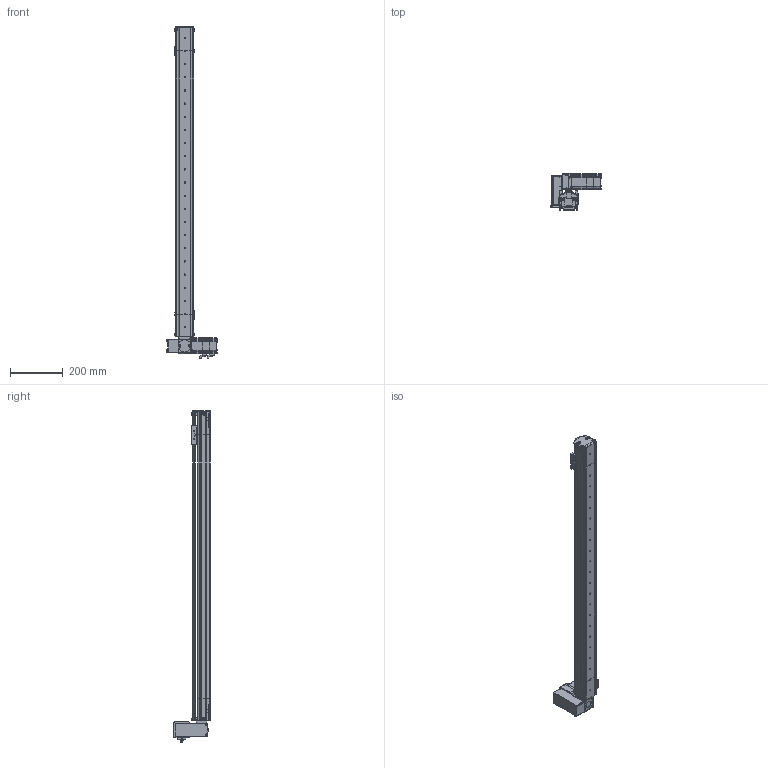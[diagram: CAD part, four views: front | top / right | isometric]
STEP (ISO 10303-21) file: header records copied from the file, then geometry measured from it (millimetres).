
FILE_DESCRIPTION (( 'STEP AP214' ), '1' );
FILE_NAME ('S07 TBN RT S1000.STEP', '2010-06-29T11:48:09', ( 'Conseil Régional Haute-Normandie' ), ( 'Conseil Régional Haute-Normandie' ), 'SwSTEP 2.0', 'SolidWorks 2010', '' );
FILE_SCHEMA (( 'AUTOMOTIVE_DESIGN' ));
Length unit declared in the file: millimetre
Products named in the file (41): couroie tail_Default; vis M5 L12_Default; Poulie_Default; plaque de bout_Default; Chariot; guide; CHariot_Default; T皻e de poulie_Default; couvercle tail TB; corp tail TB_Default; S07 TB tail (78)_Default; Vis M5 L16-2_Default; Cvis M5 L30_Default; VisM3_Default; Conecteur2 60BLDC_Default; P4_Default; P3 90A_Default; P2 90A_Default; Conecteur 60BLDC_Default; Axe 60BLDC_Default; P1_Default; vis M5 L16_Default; Course C L1000_Default; S07 TBN RT S1000; couvercle S07 course 1000 ; Couroie  course 1000_Default; Corp S07 course 1000_Default; plaque de bout RT_Default; corp moteur TB(146)_Default; S07 RT(146)_Default; Poulie head_Default; cache t皻e axe_Default; couvercle moteur S07 TB; Couroie t皻e_Default; Pièce5^S07 RT(146); vis M5 L5_Default; cache t皻e_Default; GMB 60 90 310_Default; renvoi RT_Default; Plaque racord_Default
Assembly tree (80 placements, depth 4):
  S07 TBN RT S1000
    S07 TB tail (78)_Default
      couvercle tail TB
      corp tail TB_Default
      vis M5 L12_Default  x10
      plaque de bout_Default
      Poulie_Default
        T皻e de poulie_Default
        Poulie_Default
      couroie tail_Default
    CHariot_Default
      Chariot
      vis M5 L16_Default  x2
      guide
    S07 RT(146)_Default
      Vis M5 L16-2_Default  x8
      vis M5 L5_Default  x6
      Cvis M5 L30_Default  x2
      couvercle moteur S07 TB
      cache t皻e_Default  x2
      Poulie head_Default
      vis M5 L12_Default  x6
      renvoi RT_Default
      Plaque racord_Default
      plaque de bout RT_Default
      corp moteur TB(146)_Default
      GMB 60 90 310_Default
        P4_Default
        P1_Default
        VisM3_Default  x12
        P2 90A_Default
        Axe 60BLDC_Default
        P3 90A_Default
        Conecteur 60BLDC_Default
        Conecteur2 60BLDC_Default
      cache t皻e axe_Default
      Couroie t皻e_Default
    Course C L1000_Default
      couvercle S07 course 1000 
      Corp S07 course 1000_Default
      Couroie  course 1000_Default
  Pièce5^S07 RT(146)
Bounding box: 190.2 x 139.5 x 1262 mm (x, y, z)
Volume: 2658267.3 mm3; surface area: 1130717.4 mm2
Topology: 102 solids, 102 shells, 3934 faces, 9792 edges, 6325 vertices
Faces by surface type: plane 2234, cylinder 770, bspline 677, cone 125, torus 124, sphere 4
Entity records: 167509 total; most frequent: CARTESIAN_POINT 75245, ORIENTED_EDGE 15496, DIRECTION 12355, EDGE_CURVE 7748, VERTEX_POINT 5113, LINE 5053, VECTOR 5053, AXIS2_PLACEMENT_3D 3651
